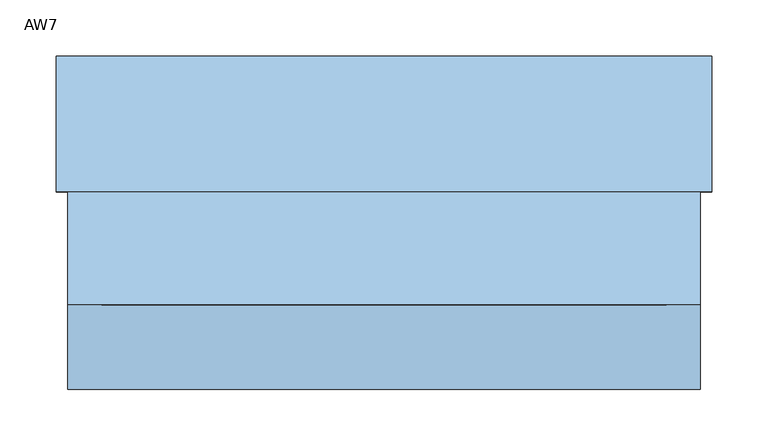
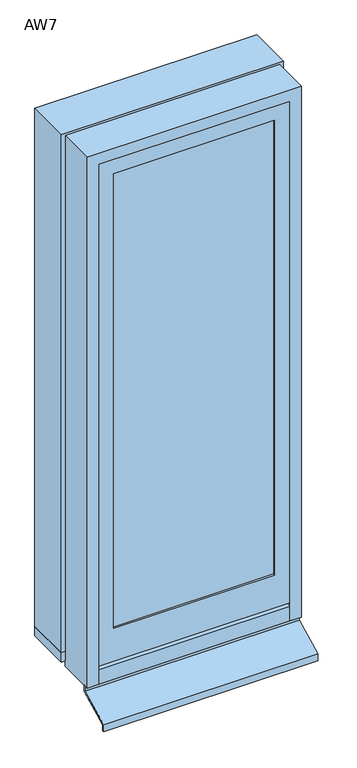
"""IFC4 building model written with IfcOpenShell, lengths in millimetres: window geometry, 営_単窓_縦辷出し : AW7."""

from ifc_helpers import new_model, si_unit, frame, origin, place, context, project, spatial, polyline, outline, extrude, source, transform, mapped, element, save


def aw7_c792b8a0(model_context):
    return source(origin(), model_context, "Body", "SweptSolid", [
        extrude(outline(polyline([(210.0, -14.0), (210.0, -19.0), (-210.0, -19.0), (-210.0, -14.0), (210.0, -14.0)])), frame((0.0, 0.0, 1140.0), z_axis=(0.0, 0.0, 1.0), x_axis=(1.0, 0.0, 0.0)), (0.0, 0.0, 1.0), 1255.0),
        extrude(outline(polyline([(2435.0, 250.0), (2435.0, -250.0), (1050.0, -250.0), (1050.0, 250.0), (2435.0, 250.0)]), holes=[polyline([(2395.0, 210.0), (1140.0, 210.0), (1140.0, -210.0), (2395.0, -210.0), (2395.0, 210.0)])]), frame((0.0, -24.0, 0.0), z_axis=(0.0, 1.0, 0.0), x_axis=(0.0, 0.0, 1.0)), (0.0, 0.0, 1.0), 30.0),
        extrude(outline(polyline([(290.0, 195.0), (290.0, 75.0), (-290.0, 75.0), (-290.0, 195.0), (290.0, 195.0)])), frame((0.0, 0.0, 1015.0), z_axis=(0.0, 0.0, 1.0), x_axis=(1.0, 0.0, 0.0)), (0.0, 0.0, 1.0), 25.0),
        extrude(outline(polyline([(-15.0, 985.0), (-15.0, 1000.0), (-10.0, 1000.0), (-10.0, 981.8269723), (-95.0014518, 941.8262891), (-95.0014518, 925.0), (-100.0, 925.0), (-100.0, 945.0), (-15.0, 985.0)])), frame((-280.0, 0.0, 0.0), z_axis=(1.0, 0.0, 0.0), x_axis=(0.0, 1.0, 0.0)), (0.0, 0.0, 1.0), 560.0),
        extrude(outline(polyline([(1015.0, -265.0), (2445.0, -265.0), (2445.0, 265.0), (1015.0, 265.0), (1015.0, 290.0), (2470.0, 290.0), (2470.0, -290.0), (1015.0, -290.0), (1015.0, -265.0)])), frame((0.0, 75.0, 0.0), z_axis=(0.0, 1.0, 0.0), x_axis=(0.0, 0.0, 1.0)), (0.0, 0.0, 1.0), 120.0),
        extrude(outline(polyline([(1000.0, -250.0), (2435.0, -250.0), (2435.0, 250.0), (1000.0, 250.0), (1000.0, 280.0), (2465.0, 280.0), (2465.0, -280.0), (1000.0, -280.0), (1000.0, -250.0)])), frame((0.0, -25.0, 0.0), z_axis=(0.0, 1.0, 0.0), x_axis=(0.0, 0.0, 1.0)), (0.0, 0.0, 1.0), 100.0),
        extrude(outline(polyline([(75.0, 1000.0), (-25.0, 1000.0), (-25.0, 1040.6666667), (75.0, 1050.0), (75.0, 1000.0)])), frame((-250.0, 0.0, 0.0), z_axis=(1.0, 0.0, 0.0), x_axis=(0.0, 1.0, 0.0)), (0.0, 0.0, 1.0), 500.0),
    ])


if __name__ == "__main__":
    model = new_model("IFC4")
    model_context = context("Model", 3, world=origin())
    ifc_project = project(units=[si_unit("LENGTHUNIT", "METRE", prefix="MILLI")], contexts=[model_context])
    site = spatial("IfcSite", under=ifc_project)
    building = spatial("IfcBuilding", under=site)
    placement = place(None, origin())
    aw7_shape = aw7_c792b8a0(model_context)
    element("IfcWindow", 1, ObjectType="営_単窓_縦辷出し : AW7", at=placement, inside=building, context=model_context, shape_type="MappedRepresentation", body=[
        mapped(aw7_shape, transform((0.0, 0.0, 0.0), x_axis=(1.0, 0.0, 0.0), y_axis=(0.0, 1.0, 0.0), z_axis=(0.0, 0.0, 1.0))),
    ])
    save(model, "model.ifc")
